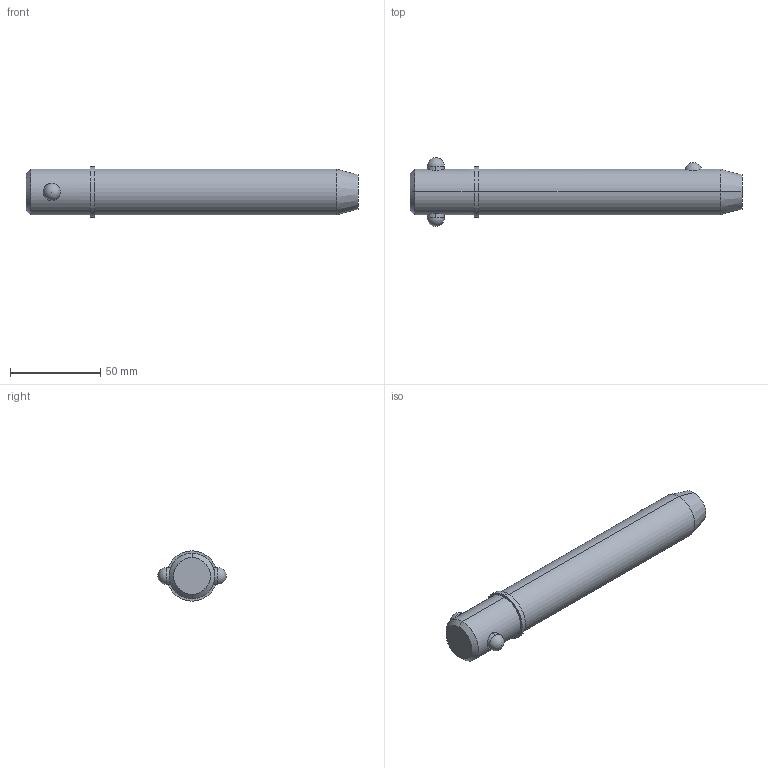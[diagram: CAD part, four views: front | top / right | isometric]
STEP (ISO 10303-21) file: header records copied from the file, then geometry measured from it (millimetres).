
FILE_DESCRIPTION (( 'STEP AP203' ), '1' );
FILE_NAME ('33018.W1045.step', '2024-11-19T17:24:45', ( '' ), ( '' ), 'SwSTEP 2.0', 'SolidWorks 2019', '' );
FILE_SCHEMA (( 'CONFIG_CONTROL_DESIGN' ));
Length unit declared in the file: millimetre
Products named in the file (3): 33018.W1045; Part2_33018.W1045; Part1_33018.W1045
Assembly tree (2 placements, depth 2):
  33018.W1045
    Part1_33018.W1045
    Part2_33018.W1045
Bounding box: 184.15 x 38.1 x 27.94 mm (x, y, z)
Volume: 92835.6 mm3; surface area: 17279.8 mm2
Topology: 2 solids, 2 shells, 22 faces, 47 edges, 30 vertices
Faces by surface type: cylinder 10, sphere 4, cone 4, plane 4
Entity records: 1071 total; most frequent: CARTESIAN_POINT 314, DIRECTION 110, ORIENTED_EDGE 82, AXIS2_PLACEMENT_3D 48, EDGE_CURVE 41, EDGE_LOOP 27, PERSON_AND_ORGANIZATION 26, VERTEX_POINT 26
